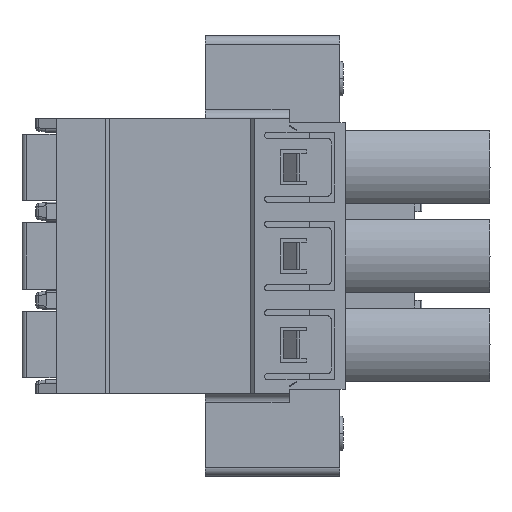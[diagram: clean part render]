
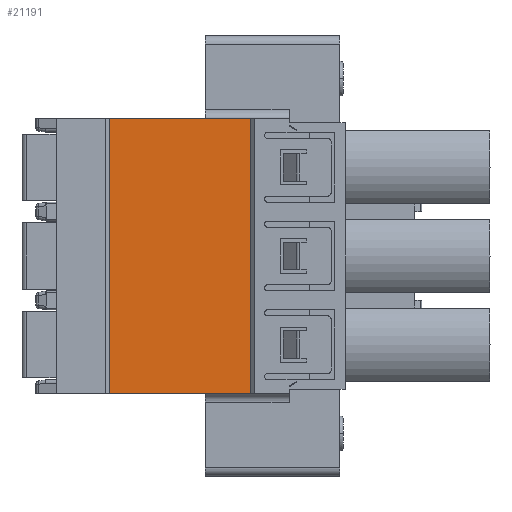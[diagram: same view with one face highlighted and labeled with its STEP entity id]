
A CAD part, left-side view. The second image highlights one B-rep face of the part: STEP entity #21191.
In plain terms, the highlighted planar face has unit normal (-1, 0, 0).
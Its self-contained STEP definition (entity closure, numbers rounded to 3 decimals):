
#1095=DIRECTION('',(0.,1.,0.));
#1096=VECTOR('',#1095,8.1);
#1097=CARTESIAN_POINT('',(0.2,5.1,-4.75));
#1098=LINE('',#1097,#1096);
#7146=DIRECTION('',(0.,0.,-1.));
#7147=VECTOR('',#7146,15.74);
#7148=CARTESIAN_POINT('',(0.2,13.2,-4.75));
#7149=LINE('',#7148,#7147);
#7150=DIRECTION('',(0.,0.,-1.));
#7151=VECTOR('',#7150,15.74);
#7152=CARTESIAN_POINT('',(0.2,5.1,-4.75));
#7153=LINE('',#7152,#7151);
#7154=DIRECTION('',(0.,1.,0.));
#7155=VECTOR('',#7154,8.1);
#7156=CARTESIAN_POINT('',(0.2,5.1,-20.49));
#7157=LINE('',#7156,#7155);
#8912=CARTESIAN_POINT('',(0.2,13.2,-4.75));
#8913=CARTESIAN_POINT('',(0.2,13.2,-20.49));
#8914=VERTEX_POINT('',#8912);
#8915=VERTEX_POINT('',#8913);
#8916=CARTESIAN_POINT('',(0.2,5.1,-4.75));
#8917=CARTESIAN_POINT('',(0.2,5.1,-20.49));
#8918=VERTEX_POINT('',#8916);
#8919=VERTEX_POINT('',#8917);
#21179=CARTESIAN_POINT('',(0.2,13.2,-10.08));
#21180=DIRECTION('',(-1.,0.,0.));
#21181=DIRECTION('',(0.,-1.,0.));
#21182=AXIS2_PLACEMENT_3D('',#21179,#21180,#21181);
#21183=PLANE('',#21182);
#21185=ORIENTED_EDGE('',*,*,#21184,.T.);
#21186=ORIENTED_EDGE('',*,*,#12793,.T.);
#21187=ORIENTED_EDGE('',*,*,#21171,.F.);
#21188=ORIENTED_EDGE('',*,*,#12423,.F.);
#21189=EDGE_LOOP('',(#21185,#21186,#21187,#21188));
#21190=FACE_OUTER_BOUND('',#21189,.F.);
#21191=ADVANCED_FACE('',(#21190),#21183,.T.);
#12423=EDGE_CURVE('',#8918,#8914,#1098,.T.);
#12793=EDGE_CURVE('',#8919,#8915,#7157,.T.);
#21171=EDGE_CURVE('',#8914,#8915,#7149,.T.);
#21184=EDGE_CURVE('',#8918,#8919,#7153,.T.);
